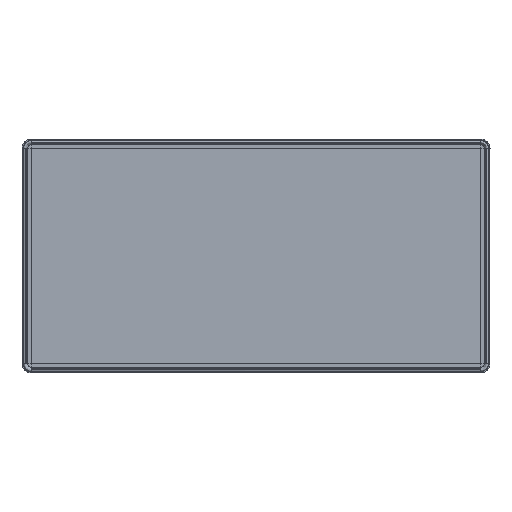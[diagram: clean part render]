
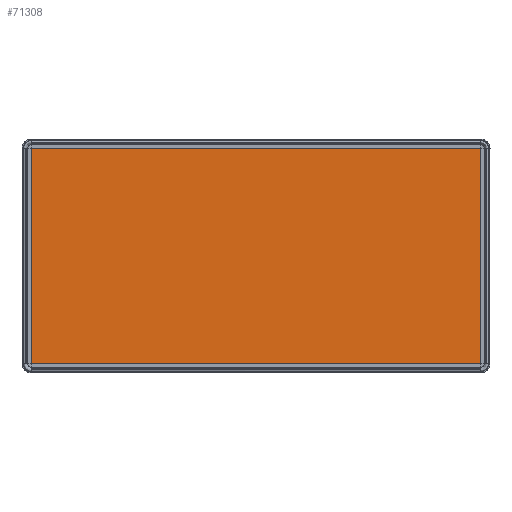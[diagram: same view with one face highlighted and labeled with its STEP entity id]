
A CAD part, top view. The second image highlights one B-rep face of the part: STEP entity #71308.
In plain terms, the highlighted planar face has unit normal (0, 0, 1).
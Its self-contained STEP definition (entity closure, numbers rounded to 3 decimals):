
#293 = ORIENTED_EDGE ( 'NONE', *, *, #40187, .T. ) ;
#5355 = B_SPLINE_CURVE_WITH_KNOTS ( 'NONE', 3,
 ( #23515, #9490, #75387, #75816 ),
 .UNSPECIFIED., .F., .F.,
 ( 4, 4 ),
 ( 0., 1. ),
 .UNSPECIFIED. ) ;
#9478 = CARTESIAN_POINT ( 'NONE',  ( -197.608, 300.963, 456.945 ) ) ;
#9490 = CARTESIAN_POINT ( 'NONE',  ( 634.267, -97.536, 456.945 ) ) ;
#11685 = CARTESIAN_POINT ( 'NONE',  ( -197.608, -296.785, 456.945 ) ) ;
#16768 = VERTEX_POINT ( 'NONE', #32690 ) ;
#20230 = B_SPLINE_CURVE_WITH_KNOTS ( 'NONE', 3,
 ( #35457, #21826, #9478, #28216 ),
 .UNSPECIFIED., .F., .F.,
 ( 4, 4 ),
 ( 0., 1. ),
 .UNSPECIFIED. ) ;
#21826 = CARTESIAN_POINT ( 'NONE',  ( 218.33, 300.963, 456.945 ) ) ;
#22431 = EDGE_CURVE ( 'NONE', #48710, #41843, #69959, .T. ) ;
#23515 = CARTESIAN_POINT ( 'NONE',  ( 634.267, -296.785, 456.945 ) ) ;
#24316 = CARTESIAN_POINT ( 'NONE',  ( 634.267, 300.963, 456.945 ) ) ;
#25005 = CARTESIAN_POINT ( 'NONE',  ( -613.546, -296.785, 456.945 ) ) ;
#28216 = CARTESIAN_POINT ( 'NONE',  ( -613.546, 300.963, 456.945 ) ) ;
#32690 = CARTESIAN_POINT ( 'NONE',  ( 634.267, -296.785, 456.945 ) ) ;
#33571 = B_SPLINE_CURVE_WITH_KNOTS ( 'NONE', 3,
 ( #55935, #11685, #69498, #81883 ),
 .UNSPECIFIED., .F., .F.,
 ( 4, 4 ),
 ( 0., 1. ),
 .UNSPECIFIED. ) ;
#34346 = CARTESIAN_POINT ( 'NONE',  ( -613.546, -97.536, 456.945 ) ) ;
#35337 = CARTESIAN_POINT ( 'NONE',  ( -613.546, 300.963, 456.945 ) ) ;
#35457 = CARTESIAN_POINT ( 'NONE',  ( 634.267, 300.963, 456.945 ) ) ;
#40187 = EDGE_CURVE ( 'NONE', #75192, #41843, #20230, .T. ) ;
#41172 = CARTESIAN_POINT ( 'NONE',  ( -613.546, 101.714, 456.945 ) ) ;
#41843 = VERTEX_POINT ( 'NONE', #35337 ) ;
#45521 = CARTESIAN_POINT ( 'NONE',  ( -613.546, -296.785, 456.945 ) ) ;
#45724 = EDGE_CURVE ( 'NONE', #16768, #75192, #5355, .T. ) ;
#47524 = CARTESIAN_POINT ( 'NONE',  ( -613.546, 300.963, 456.945 ) ) ;
#48710 = VERTEX_POINT ( 'NONE', #25005 ) ;
#50770 = ORIENTED_EDGE ( 'NONE', *, *, #45724, .T. ) ;
#51071 = FACE_OUTER_BOUND ( 'NONE', #72362, .T. ) ;
#52672 = ORIENTED_EDGE ( 'NONE', *, *, #22431, .F. ) ;
#55935 = CARTESIAN_POINT ( 'NONE',  ( -613.546, -296.785, 456.945 ) ) ;
#57027 = DIRECTION ( 'NONE',  ( 0., 0., 1. ) ) ;
#66181 = CARTESIAN_POINT ( 'NONE',  ( -613.546, -296.785, 456.945 ) ) ;
#69498 = CARTESIAN_POINT ( 'NONE',  ( 218.33, -296.785, 456.945 ) ) ;
#69771 = PLANE ( 'NONE',  #72883 ) ;
#69959 = B_SPLINE_CURVE_WITH_KNOTS ( 'NONE', 3,
 ( #66181, #34346, #41172, #47524 ),
 .UNSPECIFIED., .F., .F.,
 ( 4, 4 ),
 ( 0., 1. ),
 .UNSPECIFIED. ) ;
#71308 = ADVANCED_FACE ( 'NONE', ( #51071 ), #69771, .T. ) ;
#72362 = EDGE_LOOP ( 'NONE', ( #293, #52672, #83807, #50770 ) ) ;
#72883 = AXIS2_PLACEMENT_3D ( 'NONE', #45521, #57027, #82973 ) ;
#75192 = VERTEX_POINT ( 'NONE', #24316 ) ;
#75387 = CARTESIAN_POINT ( 'NONE',  ( 634.267, 101.714, 456.945 ) ) ;
#75816 = CARTESIAN_POINT ( 'NONE',  ( 634.267, 300.963, 456.945 ) ) ;
#79346 = EDGE_CURVE ( 'NONE', #48710, #16768, #33571, .T. ) ;
#81883 = CARTESIAN_POINT ( 'NONE',  ( 634.267, -296.785, 456.945 ) ) ;
#82973 = DIRECTION ( 'NONE',  ( 1., 0., 0. ) ) ;
#83807 = ORIENTED_EDGE ( 'NONE', *, *, #79346, .T. ) ;
